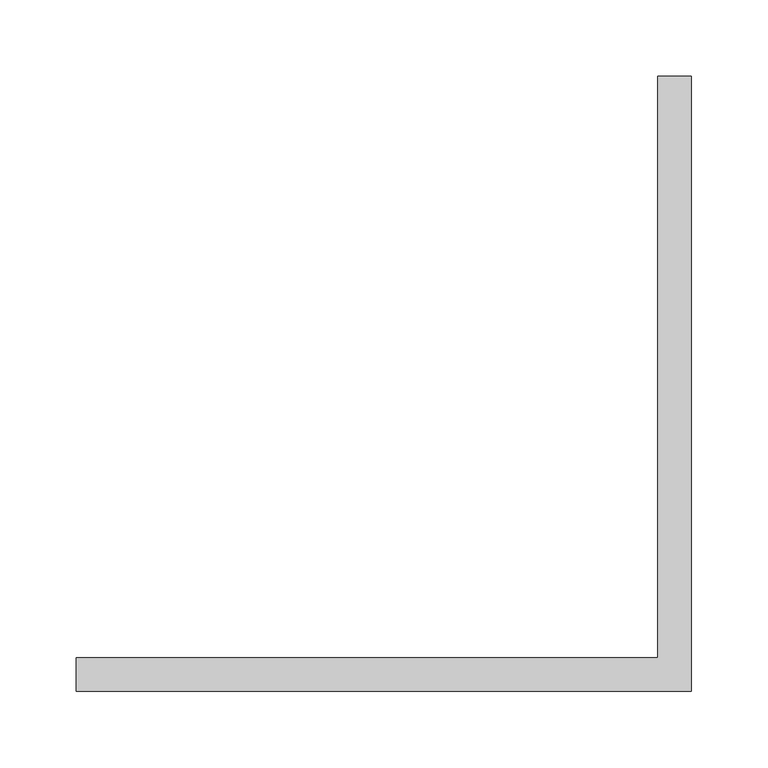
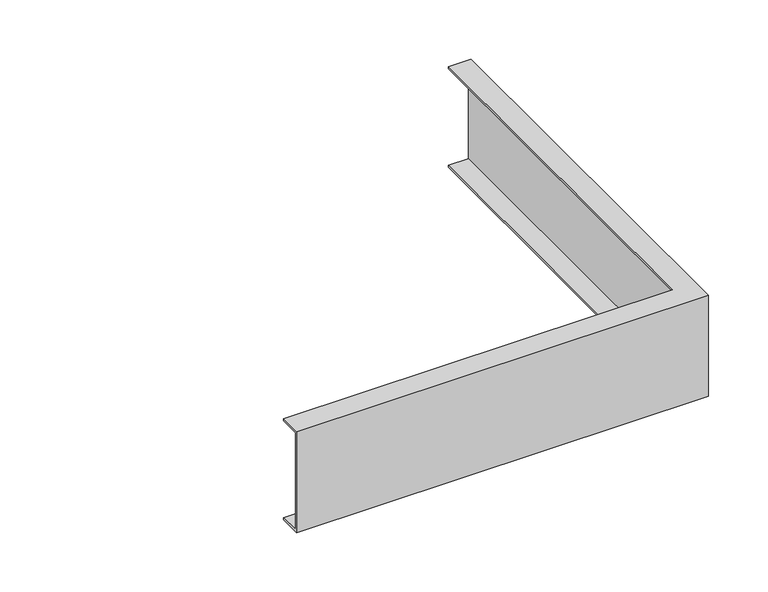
"""IFC4 building model written with IfcOpenShell, lengths in millimetres: cable carrier fitting geometry, BAKS_LDLS_CONN_Angle connector_LKSU : LKSUC_H100."""

from ifc_helpers import new_model, si_unit, origin, place, context, project, spatial, faceted_brep, source, transform, mapped, element, save


def cable_carrier_fitting_f2f9dd5a(model_context):
    return source(origin(), model_context, "Body", "Brep", [
        faceted_brep([(-20.0, 20.0, 52.0), (-400.0, 20.0, 52.0), (-400.0, -2.0, 52.0), (2.0, -2.0, 52.0), (2.0, 400.0, 52.0), (-20.0, 400.0, 52.0), (-400.0, 20.0, 50.0), (-20.0, 20.0, 50.0), (-20.0, 400.0, 50.0), (0.0, 400.0, 50.0), (0.0, 0.0, 50.0), (-400.0, 0.0, 50.0), (-400.0, 0.0, -50.0), (-400.0, 20.0, -50.0), (-400.0, 20.0, -52.0), (-400.0, -2.0, -52.0), (2.0, 400.0, -52.0), (-20.0, 400.0, -52.0), (-20.0, 400.0, -50.0), (0.0, 400.0, -50.0), (2.0, -2.0, -52.0), (-20.0, 20.0, -52.0), (0.0, 0.0, -50.0), (-20.0, 20.0, -50.0)], [[[0, 1, 2, 3, 4, 5]], [[6, 7, 8, 9, 10, 11]], [[6, 11, 12, 13, 14, 15, 2, 1]], [[1, 0, 7, 6]], [[4, 16, 17, 18, 19, 9, 8, 5]], [[16, 4, 3, 20]], [[17, 16, 20, 15, 14, 21]], [[22, 10, 9, 19]], [[20, 3, 2, 15]], [[11, 10, 22, 12]], [[23, 13, 12, 22, 19, 18]], [[13, 23, 21, 14]], [[0, 5, 8, 7]], [[23, 18, 17, 21]]]),
    ])


if __name__ == "__main__":
    model = new_model("IFC4")
    model_context = context("Model", 3, world=origin())
    ifc_project = project(units=[si_unit("LENGTHUNIT", "METRE", prefix="MILLI")], contexts=[model_context])
    site = spatial("IfcSite", under=ifc_project)
    building = spatial("IfcBuilding", under=site)
    placement = place(None, origin())
    cable_carrier_fitting_shape = cable_carrier_fitting_f2f9dd5a(model_context)
    element("IfcCableCarrierFitting", 1, ObjectType="BAKS_LDLS_CONN_Angle connector_LKSU : LKSUC_H100", at=placement, inside=building, context=model_context, shape_type="MappedRepresentation", body=[
        mapped(cable_carrier_fitting_shape, transform((0.0, 0.0, 0.0), x_axis=(1.0, 0.0, 0.0), y_axis=(0.0, 1.0, 0.0), z_axis=(0.0, 0.0, 1.0))),
    ])
    save(model, "model.ifc")
